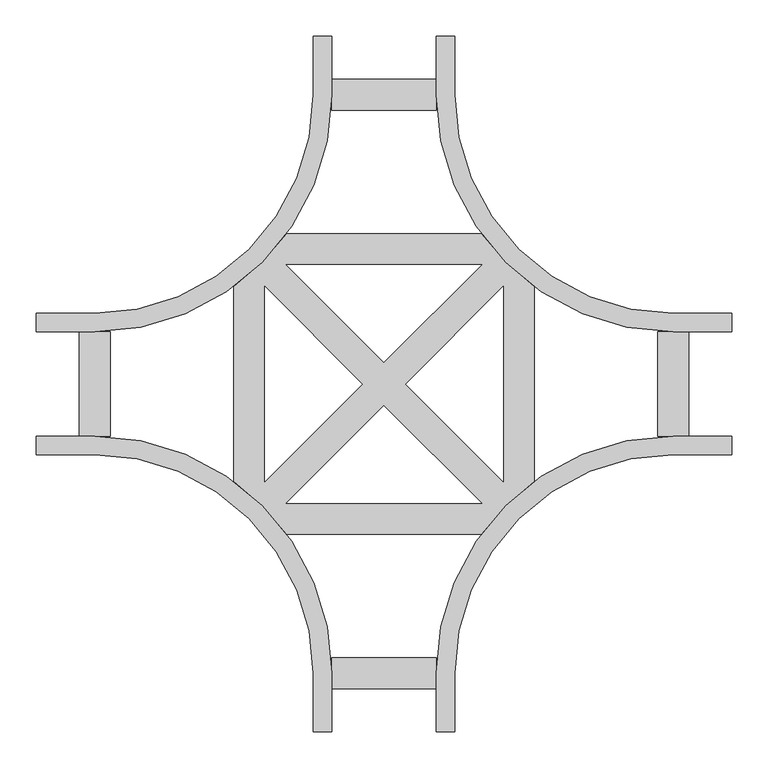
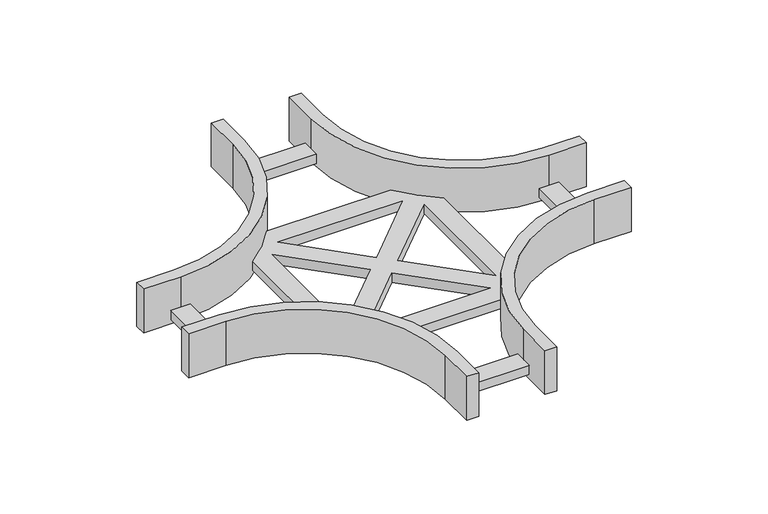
"""IFC4 building model written with IfcOpenShell, lengths in millimetres: cable carrier fitting geometry, Legrand_CableLadder_Swifts_Topaz_Cross-300R-13 : Hot Dip Galvanised (after manufacture)."""

from ifc_helpers import new_model, si_unit, point, frame, frame_2d, origin, place, context, project, spatial, polyline, circle_curve, trimmed, segment, composite_curve, outline, extrude, source, transform, mapped, element, save


def cable_carrier_fitting_f78025db(model_context):
    return source(origin(), model_context, "Body", "SweptSolid", [
        extrude(outline(composite_curve([segment(trimmed(circle_curve(frame_2d((-397.0, 397.0)), 325.5), [point((-205.9, 133.502296))], [point((-133.502296, 205.9))], True, "CARTESIAN"), True, "CONTINUOUS"), segment(polyline([(-133.502296, 205.9), (133.502296, 205.9)]), True, "CONTINUOUS"), segment(trimmed(circle_curve(frame_2d((397.0, 397.0)), 325.5), [point((133.502296, 205.9))], [point((205.9, 133.502296))], True, "CARTESIAN"), True, "CONTINUOUS"), segment(polyline([(205.9, 133.502296), (205.9, -133.502296)]), True, "CONTINUOUS"), segment(trimmed(circle_curve(frame_2d((397.0, -397.0)), 325.5), [point((205.9, -133.502296))], [point((133.502296, -205.9))], True, "CARTESIAN"), True, "CONTINUOUS"), segment(polyline([(133.502296, -205.9), (-133.502296, -205.9)]), True, "CONTINUOUS"), segment(trimmed(circle_curve(frame_2d((-397.0, -397.0)), 325.5), [point((-133.502296, -205.9))], [point((-205.9, -133.502296))], True, "CARTESIAN"), True, "CONTINUOUS"), segment(polyline([(-205.9, -133.502296), (-205.9, 133.502296)]), True, "CONTINUOUS")], self_intersect=False), holes=[polyline([(-29.6984848, 0.0), (-163.9, 134.2015152), (-163.9, -134.2015152), (-29.6984848, 0.0)]), polyline([(0.0, -29.6984848), (-134.2015152, -163.9), (134.2015152, -163.9), (0.0, -29.6984848)]), polyline([(29.6984848, 0.0), (163.9, -134.2015152), (163.9, 134.2015152), (29.6984848, 0.0)]), polyline([(-134.2015152, 163.9), (0.0, 29.6984848), (134.2015152, 163.9), (-134.2015152, 163.9)])]), frame((0.0, 0.0, -40.0), z_axis=(0.0, 0.0, 1.0), x_axis=(1.0, 0.0, 0.0)), (0.0, 0.0, 1.0), 21.0),
        extrude(outline(polyline([(-71.5, 376.0), (-71.5, 418.0), (71.5, 418.0), (71.5, 376.0), (-71.5, 376.0)])), frame((0.0, 0.0, -40.0), z_axis=(0.0, 0.0, 1.0), x_axis=(1.0, 0.0, 0.0)), (0.0, 0.0, 1.0), 21.0),
        extrude(outline(polyline([(71.5, -376.0), (71.5, -418.0), (-71.5, -418.0), (-71.5, -376.0), (71.5, -376.0)])), frame((0.0, 0.0, -40.0), z_axis=(0.0, 0.0, 1.0), x_axis=(1.0, 0.0, 0.0)), (0.0, 0.0, 1.0), 21.0),
        extrude(outline(polyline([(-376.0, 71.5), (-376.0, -71.5), (-418.0, -71.5), (-418.0, 71.5), (-376.0, 71.5)])), frame((0.0, 0.0, -40.0), z_axis=(0.0, 0.0, 1.0), x_axis=(1.0, 0.0, 0.0)), (0.0, 0.0, 1.0), 21.0),
        extrude(outline(polyline([(418.0, 71.5), (418.0, -71.5), (376.0, -71.5), (376.0, 71.5), (418.0, 71.5)])), frame((0.0, 0.0, -40.0), z_axis=(0.0, 0.0, 1.0), x_axis=(1.0, 0.0, 0.0)), (0.0, 0.0, 1.0), 21.0),
        extrude(outline(composite_curve([segment(polyline([(477.0, -71.5), (477.0, -97.0), (397.0, -97.0)]), True, "CONTINUOUS"), segment(trimmed(circle_curve(frame_2d((397.0, -397.0)), 300.0), [point((397.0, -97.0))], [point((97.0, -397.0))], True, "CARTESIAN"), True, "CONTINUOUS"), segment(polyline([(97.0, -397.0), (97.0, -477.0), (71.5, -477.0), (71.5, -397.0)]), True, "CONTINUOUS"), segment(trimmed(circle_curve(frame_2d((397.0, -397.0)), 325.5), [point((71.5, -397.0))], [point((397.0, -71.5))], False, "CARTESIAN"), True, "CONTINUOUS"), segment(polyline([(397.0, -71.5), (477.0, -71.5)]), True, "CONTINUOUS")], self_intersect=False)), frame((0.0, 0.0, -50.0), z_axis=(0.0, 0.0, 1.0), x_axis=(1.0, 0.0, 0.0)), (0.0, 0.0, 1.0), 100.0),
        extrude(outline(composite_curve([segment(polyline([(-477.0, -97.0), (-477.0, -71.5), (-397.0, -71.5)]), True, "CONTINUOUS"), segment(trimmed(circle_curve(frame_2d((-397.0, -397.0)), 325.5), [point((-397.0, -71.5))], [point((-71.5, -397.0))], False, "CARTESIAN"), True, "CONTINUOUS"), segment(polyline([(-71.5, -397.0), (-71.5, -477.0), (-97.0, -477.0), (-97.0, -397.0)]), True, "CONTINUOUS"), segment(trimmed(circle_curve(frame_2d((-397.0, -397.0)), 300.0), [point((-97.0, -397.0))], [point((-397.0, -97.0))], True, "CARTESIAN"), True, "CONTINUOUS"), segment(polyline([(-397.0, -97.0), (-477.0, -97.0)]), True, "CONTINUOUS")], self_intersect=False)), frame((0.0, 0.0, -50.0), z_axis=(0.0, 0.0, 1.0), x_axis=(1.0, 0.0, 0.0)), (0.0, 0.0, 1.0), 100.0),
        extrude(outline(composite_curve([segment(polyline([(-477.0, 71.5), (-477.0, 97.0), (-397.0, 97.0)]), True, "CONTINUOUS"), segment(trimmed(circle_curve(frame_2d((-397.0, 397.0)), 300.0), [point((-397.0, 97.0))], [point((-97.0, 397.0))], True, "CARTESIAN"), True, "CONTINUOUS"), segment(polyline([(-97.0, 397.0), (-97.0, 477.0), (-71.5, 477.0), (-71.5, 397.0)]), True, "CONTINUOUS"), segment(trimmed(circle_curve(frame_2d((-397.0, 397.0)), 325.5), [point((-71.5, 397.0))], [point((-397.0, 71.5))], False, "CARTESIAN"), True, "CONTINUOUS"), segment(polyline([(-397.0, 71.5), (-477.0, 71.5)]), True, "CONTINUOUS")], self_intersect=False)), frame((0.0, 0.0, -50.0), z_axis=(0.0, 0.0, 1.0), x_axis=(1.0, 0.0, 0.0)), (0.0, 0.0, 1.0), 100.0),
        extrude(outline(composite_curve([segment(polyline([(477.0, 97.0), (477.0, 71.5), (397.0, 71.5)]), True, "CONTINUOUS"), segment(trimmed(circle_curve(frame_2d((397.0, 397.0)), 325.5), [point((397.0, 71.5))], [point((71.5, 397.0))], False, "CARTESIAN"), True, "CONTINUOUS"), segment(polyline([(71.5, 397.0), (71.5, 477.0), (97.0, 477.0), (97.0, 397.0)]), True, "CONTINUOUS"), segment(trimmed(circle_curve(frame_2d((397.0, 397.0)), 300.0), [point((97.0, 397.0))], [point((397.0, 97.0))], True, "CARTESIAN"), True, "CONTINUOUS"), segment(polyline([(397.0, 97.0), (477.0, 97.0)]), True, "CONTINUOUS")], self_intersect=False)), frame((0.0, 0.0, -50.0), z_axis=(0.0, 0.0, 1.0), x_axis=(1.0, 0.0, 0.0)), (0.0, 0.0, 1.0), 100.0),
    ])


if __name__ == "__main__":
    model = new_model("IFC4")
    model_context = context("Model", 3, world=origin())
    ifc_project = project(units=[si_unit("LENGTHUNIT", "METRE", prefix="MILLI")], contexts=[model_context])
    site = spatial("IfcSite", under=ifc_project)
    building = spatial("IfcBuilding", under=site)
    placement = place(None, origin())
    cable_carrier_fitting_shape = cable_carrier_fitting_f78025db(model_context)
    element("IfcCableCarrierFitting", 1, ObjectType="Legrand_CableLadder_Swifts_Topaz_Cross-300R-13 : Hot Dip Galvanised (after manufacture)", at=placement, inside=building, context=model_context, shape_type="MappedRepresentation", body=[
        mapped(cable_carrier_fitting_shape, transform((0.0, 0.0, 0.0), x_axis=(1.0, 0.0, 0.0), y_axis=(0.0, 1.0, 0.0), z_axis=(0.0, 0.0, 1.0))),
    ])
    save(model, "model.ifc")
